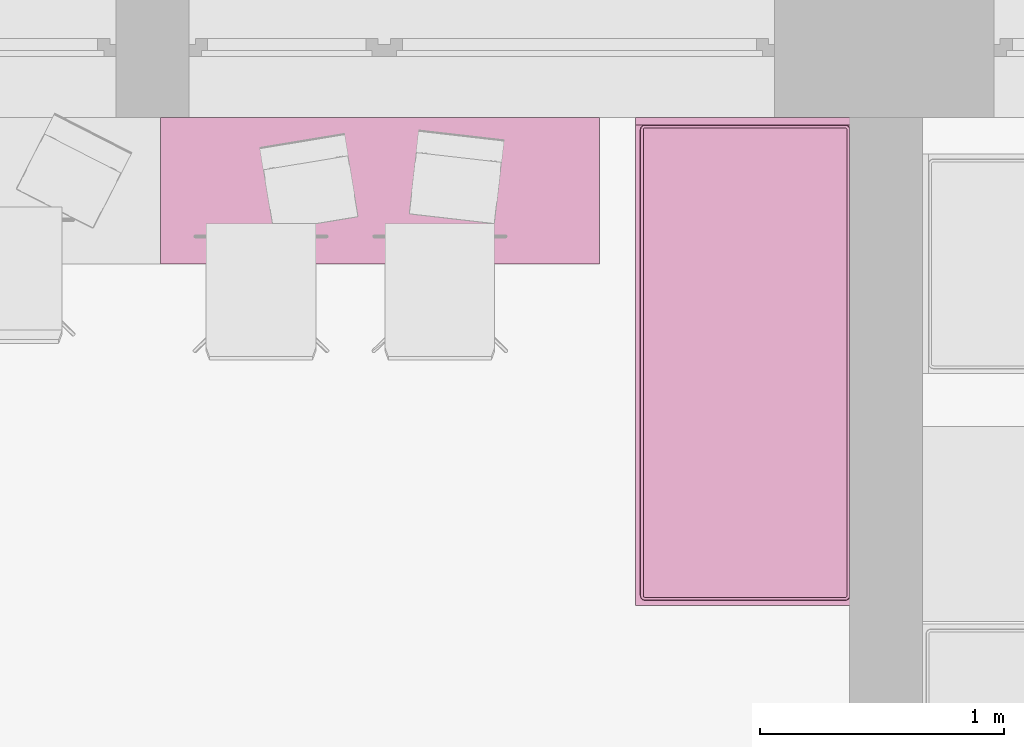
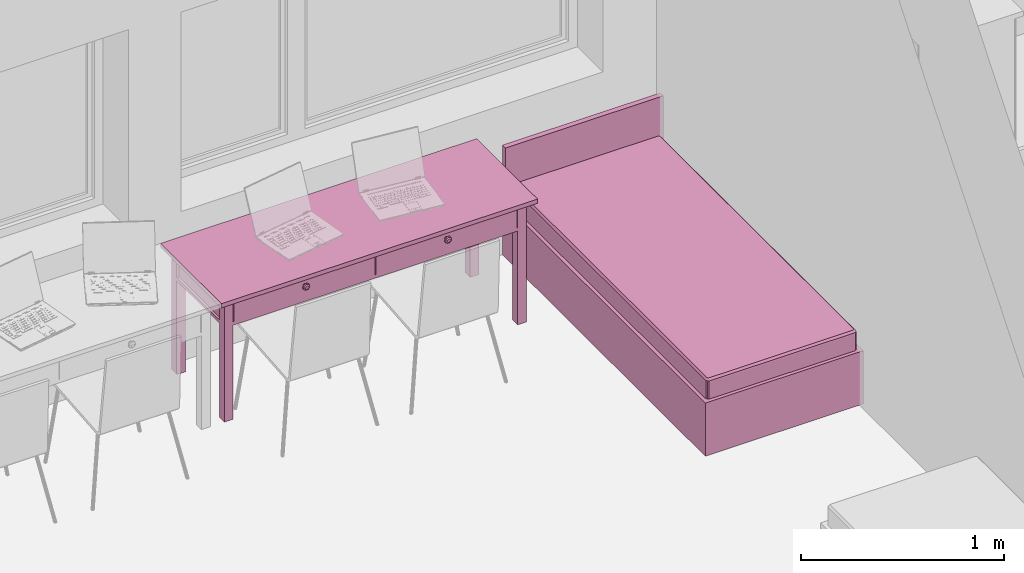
# One storey, part 70 of 165: 2 furnishings.
"""IFC2X3 building model written with IfcOpenShell, lengths in millimetres."""

from ifc_helpers import new_model, entity, si_unit, converted_unit, money_unit, direction, frame, origin_with_axes, place, context, subcontext, project, spatial, faceted_brep, source, transform, mapped, material, material_list, type_object, element, save


model = new_model("IFC2X3")

# Units and contexts
model_context = context("Model", 3, precision=1e-05, world=origin_with_axes(), true_north=direction((0.0, 1.0)))
body_context = subcontext(model_context, "Body", "Model", "MODEL_VIEW")
ifc_project = project(units=[si_unit("LENGTHUNIT", "METRE", prefix="MILLI"), si_unit("AREAUNIT", "SQUARE_METRE"), si_unit("VOLUMEUNIT", "CUBIC_METRE"), converted_unit("PLANEANGLEUNIT", "DEGREE", entity("IfcPlaneAngleMeasure", 0.0174532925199), si_unit("PLANEANGLEUNIT", "RADIAN"), dimensions=[0, 0, 0, 0, 0, 0, 0]), si_unit("SOLIDANGLEUNIT", "STERADIAN"), money_unit("USD"), converted_unit("TIMEUNIT", "Year", entity("IfcTimeMeasure", 31556926.0), si_unit("TIMEUNIT", "SECOND"), dimensions=[0, 0, 0, 0, 0, 0, 0]), si_unit("MASSUNIT", "GRAM"), si_unit("THERMODYNAMICTEMPERATUREUNIT", "DEGREE_CELSIUS"), si_unit("LUMINOUSINTENSITYUNIT", "LUMEN")], contexts=[model_context])

# Site, building, storey
site_placement = place(None, origin_with_axes())
site = spatial("IfcSite", under=ifc_project, at=site_placement, Name="Site", CompositionType="ELEMENT")
building_placement = place(site_placement, origin_with_axes())
building = spatial("IfcBuilding", under=site, at=building_placement, Name="Building", CompositionType="ELEMENT")
storey_placement = place(building_placement, frame((0.0, 0.0, 6300.0), z_axis=(0.0, 0.0, 1.0), x_axis=(1.0, 0.0, 0.0)))
storey = spatial("IfcBuildingStorey", under=building, at=storey_placement, Name="4KORRUS", CompositionType="ELEMENT", Elevation=6300.0)

# Furnishings
ifc_material = material(Name="Background")
ifc_material_list = material_list([ifc_material])
furnishing_element_type_1 = type_object("IfcFurnishingElementType", Name="Bed 19")
shared_shape_1 = source(origin_with_axes(), body_context, "Body", "Brep", [
    faceted_brep([(900.0, 1970.0, 0.0), (0.0, 1970.0, 0.0), (0.0, 2000.0, 0.0), (900.0, 2000.0, 0.0), (900.0, 1970.0, 660.0), (0.0, 1970.0, 660.0), (0.0, 2000.0, 660.0), (900.0, 2000.0, 660.0)], [[[0, 1, 2, 3]], [[1, 0, 4, 5]], [[2, 1, 5, 6]], [[3, 2, 6, 7]], [[0, 3, 7, 4]], [[5, 4, 7, 6]]]),
    faceted_brep([(900.0, 0.0, 0.0), (0.0, 0.0, 0.0), (0.0, 1970.0, 0.0), (900.0, 1970.0, 0.0), (900.0, 0.0, 320.0), (0.0, 0.0, 320.0), (0.0, 1970.0, 320.0), (900.0, 1970.0, 320.0)], [[[0, 1, 2, 3]], [[1, 0, 4, 5]], [[2, 1, 5, 6]], [[3, 2, 6, 7]], [[0, 3, 7, 4]], [[5, 4, 7, 6]]]),
    faceted_brep([(905.0, 10.0, 30.0), (900.0, 10.0, 30.0), (900.0, 695.0, 30.0), (905.0, 695.0, 30.0), (905.0, 10.0, 290.0), (900.0, 10.0, 290.0), (900.0, 695.0, 290.0), (905.0, 695.0, 290.0)], [[[0, 1, 2, 3]], [[1, 0, 4, 5]], [[2, 1, 5, 6]], [[3, 2, 6, 7]], [[0, 3, 7, 4]], [[5, 4, 7, 6]]]),
    faceted_brep([(935.0, 307.5, 150.0), (905.0, 307.5, 150.0), (905.0, 397.5, 150.0), (935.0, 397.5, 150.0), (935.0, 307.5, 170.0), (905.0, 307.5, 170.0), (905.0, 397.5, 170.0), (935.0, 397.5, 170.0)], [[[0, 1, 2, 3]], [[1, 0, 4, 5]], [[2, 1, 5, 6]], [[3, 2, 6, 7]], [[0, 3, 7, 4]], [[5, 4, 7, 6]]]),
    faceted_brep([(905.0, 705.0, 30.0), (900.0, 705.0, 30.0), (900.0, 1390.0, 30.0), (905.0, 1390.0, 30.0), (905.0, 705.0, 290.0), (900.0, 705.0, 290.0), (900.0, 1390.0, 290.0), (905.0, 1390.0, 290.0)], [[[0, 1, 2, 3]], [[1, 0, 4, 5]], [[2, 1, 5, 6]], [[3, 2, 6, 7]], [[0, 3, 7, 4]], [[5, 4, 7, 6]]]),
    faceted_brep([(935.0, 1002.5, 150.0), (905.0, 1002.5, 150.0), (905.0, 1092.5, 150.0), (935.0, 1092.5, 150.0), (935.0, 1002.5, 170.0), (905.0, 1002.5, 170.0), (905.0, 1092.5, 170.0), (935.0, 1092.5, 170.0)], [[[0, 1, 2, 3]], [[1, 0, 4, 5]], [[2, 1, 5, 6]], [[3, 2, 6, 7]], [[0, 3, 7, 4]], [[5, 4, 7, 6]]]),
    faceted_brep([(20.0, 40.0, 350.0), (20.0, 1950.0, 350.0), (21.522, 1957.654, 350.0), (25.858, 1964.142, 350.0), (32.346, 1968.478, 350.0), (40.0, 1970.0, 350.0), (860.0, 1970.0, 350.0), (867.654, 1968.478, 350.0), (874.142, 1964.142, 350.0), (878.478, 1957.654, 350.0), (880.0, 1950.0, 350.0), (880.0, 40.0, 350.0), (878.478, 32.346, 350.0), (874.142, 25.858, 350.0), (867.654, 21.522, 350.0), (860.0, 20.0, 350.0), (40.0, 20.0, 350.0), (32.346, 21.522, 350.0), (25.858, 25.858, 350.0), (21.522, 32.346, 350.0), (20.0, 40.0, 420.0), (20.0, 1950.0, 420.0), (21.522, 1957.654, 420.0), (25.858, 1964.142, 420.0), (32.346, 1968.478, 420.0), (40.0, 1970.0, 420.0), (860.0, 1970.0, 420.0), (867.654, 1968.478, 420.0), (874.142, 1964.142, 420.0), (878.478, 1957.654, 420.0), (880.0, 1950.0, 420.0), (880.0, 40.0, 420.0), (878.478, 32.346, 420.0), (874.142, 25.858, 420.0), (867.654, 21.522, 420.0), (860.0, 20.0, 420.0), (40.0, 20.0, 420.0), (32.346, 21.522, 420.0), (25.858, 25.858, 420.0), (21.522, 32.346, 420.0), (21.522, 40.15, 427.654), (21.522, 1949.85, 427.654), (22.956, 1957.06, 427.654), (26.955, 1963.045, 427.654), (32.94, 1967.044, 427.654), (40.15, 1968.478, 427.654), (859.85, 1968.478, 427.654), (867.06, 1967.044, 427.654), (873.045, 1963.045, 427.654), (877.044, 1957.06, 427.654), (878.478, 1949.85, 427.654), (878.478, 40.15, 427.654), (877.044, 32.94, 427.654), (873.045, 26.955, 427.654), (867.06, 22.956, 427.654), (859.85, 21.522, 427.654), (40.15, 21.522, 427.654), (32.94, 22.956, 427.654), (26.955, 26.955, 427.654), (22.956, 32.94, 427.654), (32.346, 41.216, 438.478), (32.346, 1948.784, 438.478), (33.152, 1952.836, 438.478), (34.759, 1955.241, 438.478), (37.164, 1956.848, 438.478), (41.216, 1957.654, 438.478), (858.784, 1957.654, 438.478), (862.836, 1956.848, 438.478), (865.241, 1955.241, 438.478), (866.848, 1952.836, 438.478), (867.654, 1948.784, 438.478), (867.654, 41.216, 438.478), (866.848, 37.164, 438.478), (865.241, 34.759, 438.478), (862.836, 33.152, 438.478), (858.784, 32.346, 438.478), (41.216, 32.346, 438.478), (37.164, 33.152, 438.478), (34.759, 34.759, 438.478), (33.152, 37.164, 438.478), (40.0, 41.97, 440.0), (40.0, 1948.03, 440.0), (40.327, 1949.673, 440.0), (40.0, 1950.0, 439.924), (41.97, 1950.0, 440.0), (858.03, 1950.0, 440.0), (859.673, 1949.673, 440.0), (860.0, 1950.0, 439.924), (860.0, 1948.03, 440.0), (860.0, 41.97, 440.0), (859.673, 40.327, 440.0), (860.0, 40.0, 439.924), (858.03, 40.0, 440.0), (41.97, 40.0, 440.0), (40.327, 40.327, 440.0), (40.0, 40.0, 439.924)], [[[0, 1, 2, 3, 4, 5, 6, 7, 8, 9, 10, 11, 12, 13, 14, 15, 16, 17, 18, 19]], [[1, 0, 20, 21]], [[2, 1, 21, 22]], [[3, 2, 22, 23]], [[4, 3, 23, 24]], [[5, 4, 24, 25]], [[6, 5, 25, 26]], [[7, 6, 26, 27]], [[8, 7, 27, 28]], [[9, 8, 28, 29]], [[10, 9, 29, 30]], [[11, 10, 30, 31]], [[12, 11, 31, 32]], [[13, 12, 32, 33]], [[14, 13, 33, 34]], [[15, 14, 34, 35]], [[16, 15, 35, 36]], [[17, 16, 36, 37]], [[18, 17, 37, 38]], [[19, 18, 38, 39]], [[0, 19, 39, 20]], [[21, 20, 40, 41]], [[22, 21, 41, 42]], [[23, 22, 42, 43]], [[24, 23, 43, 44]], [[25, 24, 44, 45]], [[26, 25, 45, 46]], [[27, 26, 46, 47]], [[28, 27, 47, 48]], [[29, 28, 48, 49]], [[30, 29, 49, 50]], [[31, 30, 50, 51]], [[32, 31, 51, 52]], [[33, 32, 52, 53]], [[34, 33, 53, 54]], [[35, 34, 54, 55]], [[36, 35, 55, 56]], [[37, 36, 56, 57]], [[38, 37, 57, 58]], [[39, 38, 58, 59]], [[20, 39, 59, 40]], [[41, 40, 60, 61]], [[42, 41, 61, 62]], [[43, 42, 62, 63]], [[44, 43, 63, 64]], [[45, 44, 64, 65]], [[46, 45, 65, 66]], [[47, 46, 66, 67]], [[48, 47, 67, 68]], [[49, 48, 68, 69]], [[50, 49, 69, 70]], [[51, 50, 70, 71]], [[52, 51, 71, 72]], [[53, 52, 72, 73]], [[54, 53, 73, 74]], [[55, 54, 74, 75]], [[56, 55, 75, 76]], [[57, 56, 76, 77]], [[58, 57, 77, 78]], [[59, 58, 78, 79]], [[40, 59, 79, 60]], [[61, 60, 80, 81]], [[62, 61, 81, 82, 83]], [[63, 62, 83]], [[64, 63, 83]], [[65, 64, 83, 82, 84]], [[66, 65, 84, 85]], [[67, 66, 85, 86, 87]], [[68, 67, 87]], [[69, 68, 87]], [[70, 69, 87, 86, 88]], [[71, 70, 88, 89]], [[72, 71, 89, 90, 91]], [[73, 72, 91]], [[74, 73, 91]], [[75, 74, 91, 90, 92]], [[76, 75, 92, 93]], [[77, 76, 93, 94, 95]], [[78, 77, 95]], [[79, 78, 95]], [[60, 79, 95, 94, 80]], [[81, 80, 94, 93, 92, 90, 89, 88, 86, 85, 84, 82]]]),
    faceted_brep([(20.0, 40.0, 350.0), (21.522, 32.346, 350.0), (25.858, 25.858, 350.0), (32.346, 21.522, 350.0), (40.0, 20.0, 350.0), (860.0, 20.0, 350.0), (867.654, 21.522, 350.0), (874.142, 25.858, 350.0), (878.478, 32.346, 350.0), (880.0, 40.0, 350.0), (880.0, 1950.0, 350.0), (878.478, 1957.654, 350.0), (874.142, 1964.142, 350.0), (867.654, 1968.478, 350.0), (860.0, 1970.0, 350.0), (40.0, 1970.0, 350.0), (32.346, 1968.478, 350.0), (25.858, 1964.142, 350.0), (21.522, 1957.654, 350.0), (20.0, 1950.0, 350.0), (20.0, 40.0, 320.0), (21.522, 32.346, 320.0), (25.858, 25.858, 320.0), (32.346, 21.522, 320.0), (40.0, 20.0, 320.0), (860.0, 20.0, 320.0), (867.654, 21.522, 320.0), (874.142, 25.858, 320.0), (878.478, 32.346, 320.0), (880.0, 40.0, 320.0), (880.0, 1950.0, 320.0), (878.478, 1957.654, 320.0), (874.142, 1964.142, 320.0), (867.654, 1968.478, 320.0), (860.0, 1970.0, 320.0), (40.0, 1970.0, 320.0), (32.346, 1968.478, 320.0), (25.858, 1964.142, 320.0), (21.522, 1957.654, 320.0), (20.0, 1950.0, 320.0)], [[[0, 1, 2, 3, 4, 5, 6, 7, 8, 9, 10, 11, 12, 13, 14, 15, 16, 17, 18, 19]], [[0, 20, 21, 1]], [[1, 21, 22, 2]], [[2, 22, 23, 3]], [[3, 23, 24, 4]], [[4, 24, 25, 5]], [[5, 25, 26, 6]], [[6, 26, 27, 7]], [[7, 27, 28, 8]], [[8, 28, 29, 9]], [[9, 29, 30, 10]], [[10, 30, 31, 11]], [[11, 31, 32, 12]], [[12, 32, 33, 13]], [[13, 33, 34, 14]], [[14, 34, 35, 15]], [[15, 35, 36, 16]], [[16, 36, 37, 17]], [[17, 37, 38, 18]], [[18, 38, 39, 19]], [[19, 39, 20, 0]], [[20, 39, 38, 37, 36, 35, 34, 33, 32, 31, 30, 29, 28, 27, 26, 25, 24, 23, 22, 21]]]),
])
furnishing_1_placement = place(storey_placement, frame((-43168.0756463, -7139.6041088, 0.0), z_axis=(0.0, 0.0, 1.0), x_axis=(1.0, 0.0, 0.0)))
element("IfcFurnishingElement", 1, at=furnishing_1_placement, inside=storey, type_object=furnishing_element_type_1, material=ifc_material_list, Name="FU - 013", context=body_context, shape_type="MappedRepresentation", body=[
    mapped(shared_shape_1, transform((0.0, 0.0, 0.0))),
])
furnishing_element_type_2 = type_object("IfcFurnishingElementType", Name="Rectangular Table 01 19")
shared_shape_2 = source(origin_with_axes(), body_context, "Body", "Brep", [
    faceted_brep([(90.0, 40.0, 0.0), (40.0, 40.0, 0.0), (40.0, 90.0, 0.0), (90.0, 90.0, 0.0), (90.0, 40.0, 725.0), (40.0, 40.0, 725.0), (40.0, 90.0, 725.0), (90.0, 90.0, 725.0)], [[[0, 1, 2, 3]], [[1, 0, 4, 5]], [[2, 1, 5, 6]], [[3, 2, 6, 7]], [[0, 3, 7, 4]], [[5, 4, 7, 6]]]),
    faceted_brep([(1760.0, 40.0, 0.0), (1710.0, 40.0, 0.0), (1710.0, 90.0, 0.0), (1760.0, 90.0, 0.0), (1760.0, 40.0, 725.0), (1710.0, 40.0, 725.0), (1710.0, 90.0, 725.0), (1760.0, 90.0, 725.0)], [[[0, 1, 2, 3]], [[1, 0, 4, 5]], [[2, 1, 5, 6]], [[3, 2, 6, 7]], [[0, 3, 7, 4]], [[5, 4, 7, 6]]]),
    faceted_brep([(90.0, 510.0, 0.0), (40.0, 510.0, 0.0), (40.0, 560.0, 0.0), (90.0, 560.0, 0.0), (90.0, 510.0, 725.0), (40.0, 510.0, 725.0), (40.0, 560.0, 725.0), (90.0, 560.0, 725.0)], [[[0, 1, 2, 3]], [[1, 0, 4, 5]], [[2, 1, 5, 6]], [[3, 2, 6, 7]], [[0, 3, 7, 4]], [[5, 4, 7, 6]]]),
    faceted_brep([(1760.0, 510.0, 0.0), (1710.0, 510.0, 0.0), (1710.0, 560.0, 0.0), (1760.0, 560.0, 0.0), (1760.0, 510.0, 725.0), (1710.0, 510.0, 725.0), (1710.0, 560.0, 725.0), (1760.0, 560.0, 725.0)], [[[0, 1, 2, 3]], [[1, 0, 4, 5]], [[2, 1, 5, 6]], [[3, 2, 6, 7]], [[0, 3, 7, 4]], [[5, 4, 7, 6]]]),
    faceted_brep([(1760.0, 40.0, 565.0), (40.0, 40.0, 565.0), (40.0, 560.0, 565.0), (1760.0, 560.0, 565.0), (1760.0, 40.0, 585.0), (40.0, 40.0, 585.0), (40.0, 560.0, 585.0), (1760.0, 560.0, 585.0)], [[[0, 1, 2, 3]], [[1, 0, 4, 5]], [[2, 1, 5, 6]], [[3, 2, 6, 7]], [[0, 3, 7, 4]], [[5, 4, 7, 6]]]),
    faceted_brep([(1710.0, 52.5, 585.0), (90.0, 52.5, 585.0), (90.0, 77.5, 585.0), (1710.0, 77.5, 585.0), (1710.0, 52.5, 745.0), (90.0, 52.5, 745.0), (90.0, 77.5, 745.0), (1710.0, 77.5, 745.0)], [[[0, 1, 2, 3]], [[1, 0, 4, 5]], [[2, 1, 5, 6]], [[3, 2, 6, 7]], [[0, 3, 7, 4]], [[5, 4, 7, 6]]]),
    faceted_brep([(77.5, 90.0, 585.0), (52.5, 90.0, 585.0), (52.5, 510.0, 585.0), (77.5, 510.0, 585.0), (77.5, 90.0, 745.0), (52.5, 90.0, 745.0), (52.5, 510.0, 745.0), (77.5, 510.0, 745.0)], [[[0, 1, 2, 3]], [[1, 0, 4, 5]], [[2, 1, 5, 6]], [[3, 2, 6, 7]], [[0, 3, 7, 4]], [[5, 4, 7, 6]]]),
    faceted_brep([(90.0, 547.5, 585.0), (1710.0, 547.5, 585.0), (1710.0, 522.5, 585.0), (90.0, 522.5, 585.0), (90.0, 547.5, 745.0), (1710.0, 547.5, 745.0), (1710.0, 522.5, 745.0), (90.0, 522.5, 745.0)], [[[0, 1, 2, 3]], [[1, 0, 4, 5]], [[2, 1, 5, 6]], [[3, 2, 6, 7]], [[0, 3, 7, 4]], [[5, 4, 7, 6]]]),
    faceted_brep([(1722.5, 510.0, 585.0), (1747.5, 510.0, 585.0), (1747.5, 90.0, 585.0), (1722.5, 90.0, 585.0), (1722.5, 510.0, 745.0), (1747.5, 510.0, 745.0), (1747.5, 90.0, 745.0), (1722.5, 90.0, 745.0)], [[[0, 1, 2, 3]], [[1, 0, 4, 5]], [[2, 1, 5, 6]], [[3, 2, 6, 7]], [[0, 3, 7, 4]], [[5, 4, 7, 6]]]),
    faceted_brep([(897.5, 40.0, 585.0), (95.0, 40.0, 585.0), (95.0, 60.0, 585.0), (897.5, 60.0, 585.0), (897.5, 40.0, 745.0), (95.0, 40.0, 745.0), (95.0, 60.0, 745.0), (897.5, 60.0, 745.0)], [[[0, 1, 2, 3]], [[1, 0, 4, 5]], [[2, 1, 5, 6]], [[3, 2, 6, 7]], [[0, 3, 7, 4]], [[5, 4, 7, 6]]]),
    faceted_brep([(1705.0, 40.0, 585.0), (902.5, 40.0, 585.0), (902.5, 60.0, 585.0), (1705.0, 60.0, 585.0), (1705.0, 40.0, 745.0), (902.5, 40.0, 745.0), (902.5, 60.0, 745.0), (1705.0, 60.0, 745.0)], [[[0, 1, 2, 3]], [[1, 0, 4, 5]], [[2, 1, 5, 6]], [[3, 2, 6, 7]], [[0, 3, 7, 4]], [[5, 4, 7, 6]]]),
    faceted_brep([(504.91, 40.0, 660.0), (501.25, 40.0, 656.34), (496.25, 40.0, 655.0), (491.25, 40.0, 656.34), (487.59, 40.0, 660.0), (486.25, 40.0, 665.0), (487.59, 40.0, 670.0), (491.25, 40.0, 673.66), (496.25, 40.0, 675.0), (501.25, 40.0, 673.66), (504.91, 40.0, 670.0), (506.25, 40.0, 665.0), (504.91, 25.0, 660.0), (501.25, 25.0, 656.34), (496.25, 25.0, 655.0), (491.25, 25.0, 656.34), (487.59, 25.0, 660.0), (486.25, 25.0, 665.0), (487.59, 25.0, 670.0), (491.25, 25.0, 673.66), (496.25, 25.0, 675.0), (501.25, 25.0, 673.66), (504.91, 25.0, 670.0), (506.25, 25.0, 665.0)], [[[0, 1, 2, 3, 4, 5, 6, 7, 8, 9, 10, 11]], [[1, 0, 12, 13]], [[2, 1, 13, 14]], [[3, 2, 14, 15]], [[4, 3, 15, 16]], [[5, 4, 16, 17]], [[6, 5, 17, 18]], [[7, 6, 18, 19]], [[8, 7, 19, 20]], [[9, 8, 20, 21]], [[10, 9, 21, 22]], [[11, 10, 22, 23]], [[0, 11, 23, 12]], [[12, 23, 22, 21, 20, 19, 18, 17, 16, 15, 14, 13]]]),
    faceted_brep([(506.25, 12.01, 665.0), (496.25, 10.0, 665.0), (504.91, 12.01, 660.0), (504.91, 12.01, 670.0), (501.25, 12.01, 656.34), (513.571, 17.5, 665.0), (511.25, 17.5, 656.34), (501.25, 12.01, 673.66), (511.25, 17.5, 673.66), (496.25, 12.01, 655.0), (504.91, 17.5, 650.0), (516.25, 25.0, 665.0), (513.571, 25.0, 655.0), (496.25, 12.01, 675.0), (504.91, 17.5, 680.0), (513.571, 25.0, 675.0), (491.25, 12.01, 656.34), (496.25, 17.5, 647.679), (506.25, 25.0, 647.679), (496.25, 25.0, 645.0), (486.25, 25.0, 647.679), (478.929, 25.0, 655.0), (476.25, 25.0, 665.0), (478.929, 25.0, 675.0), (486.25, 25.0, 682.321), (496.25, 25.0, 685.0), (506.25, 25.0, 682.321), (491.25, 12.01, 673.66), (496.25, 17.5, 682.321), (487.59, 12.01, 660.0), (487.59, 17.5, 650.0), (481.25, 17.5, 656.34), (478.929, 17.5, 665.0), (481.25, 17.5, 673.66), (487.59, 17.5, 680.0), (487.59, 12.01, 670.0), (486.25, 12.01, 665.0)], [[[0, 1, 2]], [[3, 1, 0]], [[2, 1, 4]], [[5, 0, 2, 6]], [[7, 1, 3]], [[8, 3, 0, 5]], [[4, 1, 9]], [[6, 2, 4, 10]], [[11, 5, 6, 12]], [[13, 1, 7]], [[14, 7, 3, 8]], [[15, 8, 5, 11]], [[9, 1, 16]], [[10, 4, 9, 17]], [[12, 6, 10, 18]], [[12, 18, 19, 20, 21, 22, 23, 24, 25, 26, 15, 11]], [[27, 1, 13]], [[28, 13, 7, 14]], [[26, 14, 8, 15]], [[16, 1, 29]], [[17, 9, 16, 30]], [[18, 10, 17, 19]], [[19, 17, 30, 20]], [[20, 30, 31, 21]], [[21, 31, 32, 22]], [[22, 32, 33, 23]], [[23, 33, 34, 24]], [[24, 34, 28, 25]], [[25, 28, 14, 26]], [[35, 1, 27]], [[34, 27, 13, 28]], [[29, 1, 36]], [[30, 16, 29, 31]], [[31, 29, 36, 32]], [[32, 36, 35, 33]], [[33, 35, 27, 34]], [[36, 1, 35]]]),
    faceted_brep([(1312.41, 40.0, 660.0), (1308.75, 40.0, 656.34), (1303.75, 40.0, 655.0), (1298.75, 40.0, 656.34), (1295.09, 40.0, 660.0), (1293.75, 40.0, 665.0), (1295.09, 40.0, 670.0), (1298.75, 40.0, 673.66), (1303.75, 40.0, 675.0), (1308.75, 40.0, 673.66), (1312.41, 40.0, 670.0), (1313.75, 40.0, 665.0), (1312.41, 25.0, 660.0), (1308.75, 25.0, 656.34), (1303.75, 25.0, 655.0), (1298.75, 25.0, 656.34), (1295.09, 25.0, 660.0), (1293.75, 25.0, 665.0), (1295.09, 25.0, 670.0), (1298.75, 25.0, 673.66), (1303.75, 25.0, 675.0), (1308.75, 25.0, 673.66), (1312.41, 25.0, 670.0), (1313.75, 25.0, 665.0)], [[[0, 1, 2, 3, 4, 5, 6, 7, 8, 9, 10, 11]], [[1, 0, 12, 13]], [[2, 1, 13, 14]], [[3, 2, 14, 15]], [[4, 3, 15, 16]], [[5, 4, 16, 17]], [[6, 5, 17, 18]], [[7, 6, 18, 19]], [[8, 7, 19, 20]], [[9, 8, 20, 21]], [[10, 9, 21, 22]], [[11, 10, 22, 23]], [[0, 11, 23, 12]], [[12, 23, 22, 21, 20, 19, 18, 17, 16, 15, 14, 13]]]),
    faceted_brep([(1313.75, 12.01, 665.0), (1303.75, 10.0, 665.0), (1312.41, 12.01, 660.0), (1312.41, 12.01, 670.0), (1308.75, 12.01, 656.34), (1321.071, 17.5, 665.0), (1318.75, 17.5, 656.34), (1308.75, 12.01, 673.66), (1318.75, 17.5, 673.66), (1303.75, 12.01, 655.0), (1312.41, 17.5, 650.0), (1323.75, 25.0, 665.0), (1321.071, 25.0, 655.0), (1303.75, 12.01, 675.0), (1312.41, 17.5, 680.0), (1321.071, 25.0, 675.0), (1298.75, 12.01, 656.34), (1303.75, 17.5, 647.679), (1313.75, 25.0, 647.679), (1303.75, 25.0, 645.0), (1293.75, 25.0, 647.679), (1286.429, 25.0, 655.0), (1283.75, 25.0, 665.0), (1286.429, 25.0, 675.0), (1293.75, 25.0, 682.321), (1303.75, 25.0, 685.0), (1313.75, 25.0, 682.321), (1298.75, 12.01, 673.66), (1303.75, 17.5, 682.321), (1295.09, 12.01, 660.0), (1295.09, 17.5, 650.0), (1288.75, 17.5, 656.34), (1286.429, 17.5, 665.0), (1288.75, 17.5, 673.66), (1295.09, 17.5, 680.0), (1295.09, 12.01, 670.0), (1293.75, 12.01, 665.0)], [[[0, 1, 2]], [[3, 1, 0]], [[2, 1, 4]], [[5, 0, 2, 6]], [[7, 1, 3]], [[8, 3, 0, 5]], [[4, 1, 9]], [[6, 2, 4, 10]], [[11, 5, 6, 12]], [[13, 1, 7]], [[14, 7, 3, 8]], [[15, 8, 5, 11]], [[9, 1, 16]], [[10, 4, 9, 17]], [[12, 6, 10, 18]], [[12, 18, 19, 20, 21, 22, 23, 24, 25, 26, 15, 11]], [[27, 1, 13]], [[28, 13, 7, 14]], [[26, 14, 8, 15]], [[16, 1, 29]], [[17, 9, 16, 30]], [[18, 10, 17, 19]], [[19, 17, 30, 20]], [[20, 30, 31, 21]], [[21, 31, 32, 22]], [[22, 32, 33, 23]], [[23, 33, 34, 24]], [[24, 34, 28, 25]], [[25, 28, 14, 26]], [[35, 1, 27]], [[34, 27, 13, 28]], [[29, 1, 36]], [[30, 16, 29, 31]], [[31, 29, 36, 32]], [[32, 36, 35, 33]], [[33, 35, 27, 34]], [[36, 1, 35]]]),
    faceted_brep([(1800.0, 0.0, 725.0), (0.0, 0.0, 725.0), (0.0, 600.0, 725.0), (1800.0, 600.0, 725.0), (1800.0, 0.0, 750.0), (0.0, 0.0, 750.0), (0.0, 600.0, 750.0), (1800.0, 600.0, 750.0)], [[[0, 1, 2, 3]], [[1, 0, 4, 5]], [[2, 1, 5, 6]], [[3, 2, 6, 7]], [[0, 3, 7, 4]], [[5, 4, 7, 6]]]),
])
furnishing_2_placement = place(storey_placement, frame((-45114.6329017, -5739.6041088, 0.0), z_axis=(0.0, 0.0, 1.0), x_axis=(1.0, 0.0, 0.0)))
element("IfcFurnishingElement", 2, at=furnishing_2_placement, inside=storey, type_object=furnishing_element_type_2, material=ifc_material_list, Name="FU - 011", context=body_context, shape_type="MappedRepresentation", body=[
    mapped(shared_shape_2, transform((0.0, 0.0, 0.0))),
])

save(model, "model.ifc")
